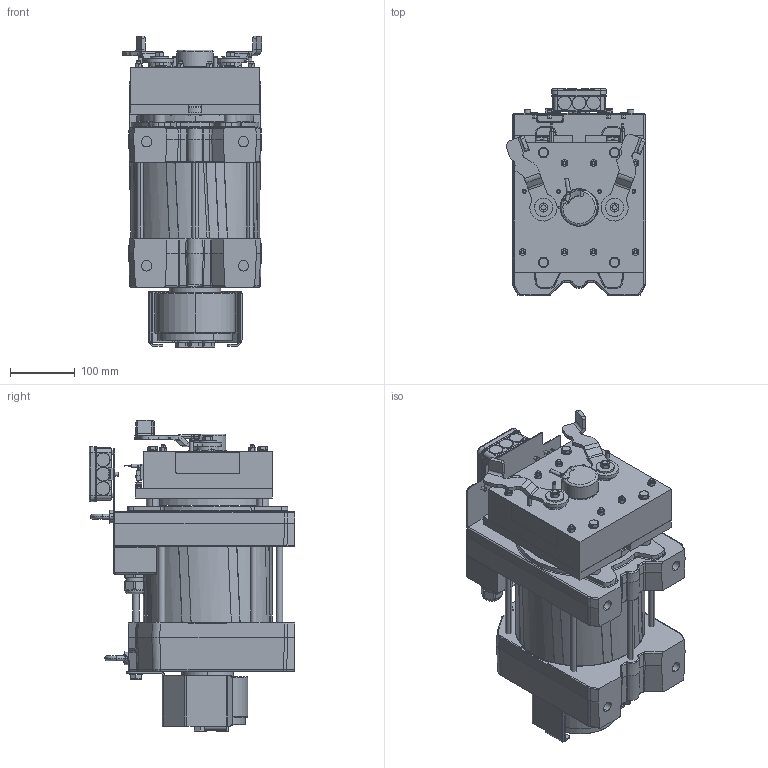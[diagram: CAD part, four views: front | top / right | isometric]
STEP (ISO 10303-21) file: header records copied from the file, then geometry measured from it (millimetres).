
FILE_DESCRIPTION((''),'2;1');
FILE_NAME('00354091_SW0001','2021-09-14T',('pietrobellog'),('Sicor spa'),'CREO PARAMETRIC BY PTC INC, 2017170','CREO PARAMETRIC BY PTC INC, 2017170','');
FILE_SCHEMA(('CONFIG_CONTROL_DESIGN'));
Products named in the file (1): 00354091_SW0001
Bounding box: 215.92 x 318.5 x 481.97 mm (x, y, z)
Surface area: 1333665 mm2 (no closed solid volume)
Topology: 0 solids, 297 shells, 4834 faces, 14335 edges, 9539 vertices
Faces by surface type: bspline 1507, plane 1319, cylinder 1221, cone 461, torus 261, sphere 65
Entity records: 236746 total; most frequent: CARTESIAN_POINT 123536, ORIENTED_EDGE 23484, DIRECTION 20571, EDGE_CURVE 14318, VERTEX_POINT 9539, AXIS2_PLACEMENT_3D 7634, VECTOR 5303, LINE 5303
